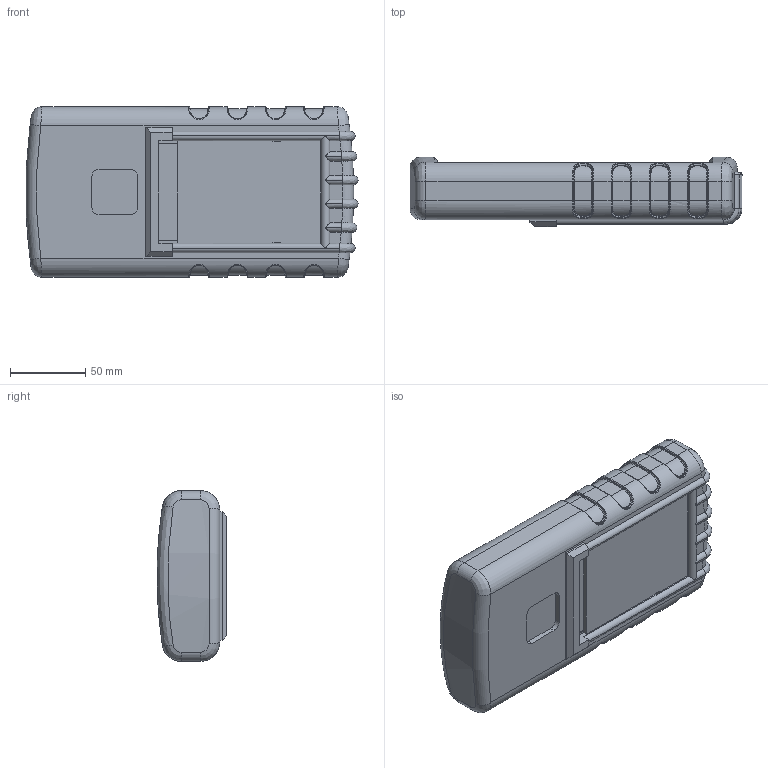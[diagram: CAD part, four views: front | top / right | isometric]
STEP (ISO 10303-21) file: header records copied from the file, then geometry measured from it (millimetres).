
FILE_DESCRIPTION (( 'STEP AP214' ), '1' );
FILE_NAME ('100-42-NO-F.STEP', '2020-11-20T22:20:41', ( 'Rudy' ), ( '' ), 'SwSTEP 2.0', 'SolidWorks 2016', '' );
FILE_SCHEMA (( 'AUTOMOTIVE_DESIGN' ));
Length unit declared in the file: inch
Products named in the file (5): 100 RBT; 100-NO- PCB; 100-04-flush Top; 100-02 BOT-NO BAT; 100-42-NO-F
Assembly tree (4 placements, depth 2):
  100-42-NO-F
    100-02 BOT-NO BAT
    100-04-flush Top
    100-NO- PCB
    100 RBT
Bounding box: 220.37 x 46.01 x 113.28 mm (x, y, z)
Volume: 354240.2 mm3; surface area: 245210.8 mm2
Topology: 4 solids, 4 shells, 1005 faces, 2567 edges, 1576 vertices
Faces by surface type: plane 364, cylinder 347, bspline 148, torus 102, cone 40, sphere 4
Entity records: 41195 total; most frequent: CARTESIAN_POINT 18091, ORIENTED_EDGE 5062, DIRECTION 4495, EDGE_CURVE 2531, AXIS2_PLACEMENT_3D 1644, VERTEX_POINT 1568, LINE 1207, VECTOR 1207
